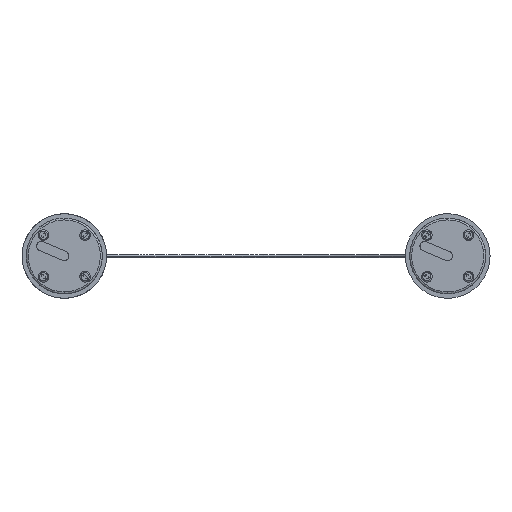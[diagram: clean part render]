
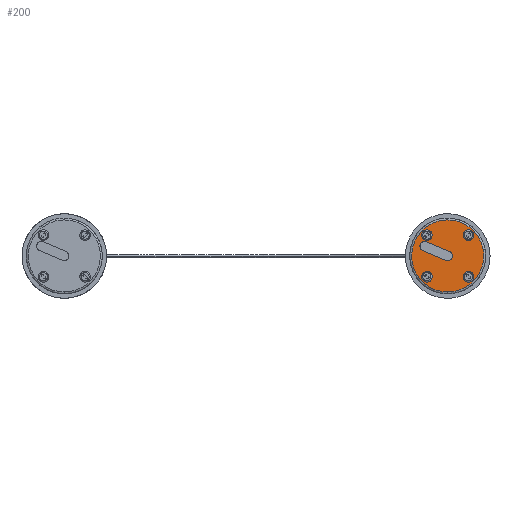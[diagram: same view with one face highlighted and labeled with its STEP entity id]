
A CAD part, top view. The second image highlights one B-rep face of the part: STEP entity #200.
In plain terms, the highlighted planar face has unit normal (0, 0, 1) as drawn and (0, 1, 0) by its records, which use the part's own axes.
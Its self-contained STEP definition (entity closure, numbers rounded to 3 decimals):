
#200=ADVANCED_FACE('',(#578,#386,#387,#388,#389,#390),#5545,.T.);
#386=FACE_BOUND('',#947,.T.);
#387=FACE_BOUND('',#948,.T.);
#388=FACE_BOUND('',#949,.T.);
#389=FACE_BOUND('',#950,.T.);
#390=FACE_BOUND('',#951,.T.);
#578=FACE_OUTER_BOUND('',#946,.T.);
#946=EDGE_LOOP('',(#2036,#2037));
#947=EDGE_LOOP('',(#2038,#2039));
#948=EDGE_LOOP('',(#2040,#2041));
#949=EDGE_LOOP('',(#2042,#2043));
#950=EDGE_LOOP('',(#2044,#2045));
#951=EDGE_LOOP('',(#2046,#2047,#2048,#2049));
#2036=ORIENTED_EDGE('',*,*,#3349,.F.);
#2037=ORIENTED_EDGE('',*,*,#3350,.F.);
#2038=ORIENTED_EDGE('',*,*,#3358,.T.);
#2039=ORIENTED_EDGE('',*,*,#3354,.T.);
#2040=ORIENTED_EDGE('',*,*,#3376,.T.);
#2041=ORIENTED_EDGE('',*,*,#3372,.T.);
#2042=ORIENTED_EDGE('',*,*,#3394,.T.);
#2043=ORIENTED_EDGE('',*,*,#3390,.T.);
#2044=ORIENTED_EDGE('',*,*,#3412,.T.);
#2045=ORIENTED_EDGE('',*,*,#3408,.T.);
#2046=ORIENTED_EDGE('',*,*,#3427,.T.);
#2047=ORIENTED_EDGE('',*,*,#3430,.T.);
#2048=ORIENTED_EDGE('',*,*,#3433,.T.);
#2049=ORIENTED_EDGE('',*,*,#3423,.T.);
#3349=EDGE_CURVE('',#4977,#4978,#4027,.T.);
#3350=EDGE_CURVE('',#4978,#4977,#4028,.T.);
#3354=EDGE_CURVE('',#4979,#4980,#4032,.T.);
#3358=EDGE_CURVE('',#4980,#4979,#4034,.T.);
#3372=EDGE_CURVE('',#4981,#4982,#4042,.T.);
#3376=EDGE_CURVE('',#4982,#4981,#4044,.T.);
#3390=EDGE_CURVE('',#4983,#4984,#4052,.T.);
#3394=EDGE_CURVE('',#4984,#4983,#4054,.T.);
#3408=EDGE_CURVE('',#4985,#4986,#4062,.T.);
#3412=EDGE_CURVE('',#4986,#4985,#4064,.T.);
#3423=EDGE_CURVE('',#4987,#4988,#4069,.T.);
#3427=EDGE_CURVE('',#4988,#4990,#4508,.T.);
#3430=EDGE_CURVE('',#4990,#4989,#4071,.T.);
#3433=EDGE_CURVE('',#4989,#4987,#4512,.T.);
#4027=(
BOUNDED_CURVE()
B_SPLINE_CURVE(2,(#19536,#19537,#19538,#19539,#19540),.UNSPECIFIED.,.F.,
 .F.)
B_SPLINE_CURVE_WITH_KNOTS((3,2,3),(0.,90.321,180.642),
 .UNSPECIFIED.)
CURVE()
GEOMETRIC_REPRESENTATION_ITEM()
RATIONAL_B_SPLINE_CURVE((1.,0.707,1.,0.707,1.))
REPRESENTATION_ITEM('')
);
#4028=(
BOUNDED_CURVE()
B_SPLINE_CURVE(2,(#19541,#19542,#19543,#19544,#19545),.UNSPECIFIED.,.F.,
 .F.)
B_SPLINE_CURVE_WITH_KNOTS((3,2,3),(-180.642,-90.321,
0.),.UNSPECIFIED.)
CURVE()
GEOMETRIC_REPRESENTATION_ITEM()
RATIONAL_B_SPLINE_CURVE((1.,0.707,1.,0.707,1.))
REPRESENTATION_ITEM('')
);
#4032=(
BOUNDED_CURVE()
B_SPLINE_CURVE(2,(#19557,#19558,#19559,#19560,#19561),.UNSPECIFIED.,.F.,
 .F.)
B_SPLINE_CURVE_WITH_KNOTS((3,2,3),(-20.628,-10.418,
-0.208),.UNSPECIFIED.)
CURVE()
GEOMETRIC_REPRESENTATION_ITEM()
RATIONAL_B_SPLINE_CURVE((1.,0.707,1.,0.707,1.))
REPRESENTATION_ITEM('')
);
#4034=(
BOUNDED_CURVE()
B_SPLINE_CURVE(2,(#19571,#19572,#19573,#19574,#19575),.UNSPECIFIED.,.F.,
 .F.)
B_SPLINE_CURVE_WITH_KNOTS((3,2,3),(-20.628,-10.418,
-0.208),.UNSPECIFIED.)
CURVE()
GEOMETRIC_REPRESENTATION_ITEM()
RATIONAL_B_SPLINE_CURVE((1.,0.707,1.,0.707,1.))
REPRESENTATION_ITEM('')
);
#4042=(
BOUNDED_CURVE()
B_SPLINE_CURVE(2,(#19619,#19620,#19621,#19622,#19623),.UNSPECIFIED.,.F.,
 .F.)
B_SPLINE_CURVE_WITH_KNOTS((3,2,3),(-20.628,-10.418,
-0.208),.UNSPECIFIED.)
CURVE()
GEOMETRIC_REPRESENTATION_ITEM()
RATIONAL_B_SPLINE_CURVE((1.,0.707,1.,0.707,1.))
REPRESENTATION_ITEM('')
);
#4044=(
BOUNDED_CURVE()
B_SPLINE_CURVE(2,(#19633,#19634,#19635,#19636,#19637),.UNSPECIFIED.,.F.,
 .F.)
B_SPLINE_CURVE_WITH_KNOTS((3,2,3),(-20.628,-10.418,
-0.208),.UNSPECIFIED.)
CURVE()
GEOMETRIC_REPRESENTATION_ITEM()
RATIONAL_B_SPLINE_CURVE((1.,0.707,1.,0.707,1.))
REPRESENTATION_ITEM('')
);
#4052=(
BOUNDED_CURVE()
B_SPLINE_CURVE(2,(#19681,#19682,#19683,#19684,#19685),.UNSPECIFIED.,.F.,
 .F.)
B_SPLINE_CURVE_WITH_KNOTS((3,2,3),(-20.628,-10.418,
-0.208),.UNSPECIFIED.)
CURVE()
GEOMETRIC_REPRESENTATION_ITEM()
RATIONAL_B_SPLINE_CURVE((1.,0.707,1.,0.707,1.))
REPRESENTATION_ITEM('')
);
#4054=(
BOUNDED_CURVE()
B_SPLINE_CURVE(2,(#19695,#19696,#19697,#19698,#19699),.UNSPECIFIED.,.F.,
 .F.)
B_SPLINE_CURVE_WITH_KNOTS((3,2,3),(-20.628,-10.418,
-0.208),.UNSPECIFIED.)
CURVE()
GEOMETRIC_REPRESENTATION_ITEM()
RATIONAL_B_SPLINE_CURVE((1.,0.707,1.,0.707,1.))
REPRESENTATION_ITEM('')
);
#4062=(
BOUNDED_CURVE()
B_SPLINE_CURVE(2,(#19743,#19744,#19745,#19746,#19747),.UNSPECIFIED.,.F.,
 .F.)
B_SPLINE_CURVE_WITH_KNOTS((3,2,3),(-20.628,-10.418,
-0.208),.UNSPECIFIED.)
CURVE()
GEOMETRIC_REPRESENTATION_ITEM()
RATIONAL_B_SPLINE_CURVE((1.,0.707,1.,0.707,1.))
REPRESENTATION_ITEM('')
);
#4064=(
BOUNDED_CURVE()
B_SPLINE_CURVE(2,(#19757,#19758,#19759,#19760,#19761),.UNSPECIFIED.,.F.,
 .F.)
B_SPLINE_CURVE_WITH_KNOTS((3,2,3),(-20.628,-10.418,
-0.208),.UNSPECIFIED.)
CURVE()
GEOMETRIC_REPRESENTATION_ITEM()
RATIONAL_B_SPLINE_CURVE((1.,0.707,1.,0.707,1.))
REPRESENTATION_ITEM('')
);
#4069=(
BOUNDED_CURVE()
B_SPLINE_CURVE(2,(#19794,#19795,#19796,#19797,#19798),.UNSPECIFIED.,.F.,
 .F.)
B_SPLINE_CURVE_WITH_KNOTS((3,2,3),(-23.562,-11.781,
0.),.UNSPECIFIED.)
CURVE()
GEOMETRIC_REPRESENTATION_ITEM()
RATIONAL_B_SPLINE_CURVE((1.,0.707,1.,0.707,1.))
REPRESENTATION_ITEM('')
);
#4071=(
BOUNDED_CURVE()
B_SPLINE_CURVE(2,(#19814,#19815,#19816,#19817,#19818),.UNSPECIFIED.,.F.,
 .F.)
B_SPLINE_CURVE_WITH_KNOTS((3,2,3),(-23.562,-11.781,
0.),.UNSPECIFIED.)
CURVE()
GEOMETRIC_REPRESENTATION_ITEM()
RATIONAL_B_SPLINE_CURVE((1.,0.707,1.,0.707,1.))
REPRESENTATION_ITEM('')
);
#4508=B_SPLINE_CURVE_WITH_KNOTS('',1,(#19808,#19809),.UNSPECIFIED.,.F.,
 .F.,(2,2),(-40.,0.),.UNSPECIFIED.);
#4512=B_SPLINE_CURVE_WITH_KNOTS('',1,(#19826,#19827),.UNSPECIFIED.,.F.,
 .F.,(2,2),(-40.,0.),.UNSPECIFIED.);
#4977=VERTEX_POINT('',#16896);
#4978=VERTEX_POINT('',#16897);
#4979=VERTEX_POINT('',#16898);
#4980=VERTEX_POINT('',#16899);
#4981=VERTEX_POINT('',#16900);
#4982=VERTEX_POINT('',#16901);
#4983=VERTEX_POINT('',#16902);
#4984=VERTEX_POINT('',#16903);
#4985=VERTEX_POINT('',#16904);
#4986=VERTEX_POINT('',#16905);
#4987=VERTEX_POINT('',#16906);
#4988=VERTEX_POINT('',#16907);
#4989=VERTEX_POINT('',#16908);
#4990=VERTEX_POINT('',#16909);
#5545=PLANE('',#5820);
#5820=AXIS2_PLACEMENT_3D('',#11460,#5924,$);
#5924=DIRECTION('',(0.,1.,0.));
#11460=CARTESIAN_POINT('',(681.023,0.,69.023));
#16896=CARTESIAN_POINT('',(612.,0.,-57.5));
#16897=CARTESIAN_POINT('',(612.,0.,57.5));
#16898=CARTESIAN_POINT('',(584.776,0.,-27.224));
#16899=CARTESIAN_POINT('',(572.756,0.,-39.244));
#16900=CARTESIAN_POINT('',(584.776,0.,27.224));
#16901=CARTESIAN_POINT('',(572.756,0.,39.244));
#16902=CARTESIAN_POINT('',(639.224,0.,27.224));
#16903=CARTESIAN_POINT('',(651.244,0.,39.244));
#16904=CARTESIAN_POINT('',(639.224,0.,-27.224));
#16905=CARTESIAN_POINT('',(651.244,0.,-39.244));
#16906=CARTESIAN_POINT('',(614.93,0.,-6.904));
#16907=CARTESIAN_POINT('',(609.07,0.,6.904));
#16908=CARTESIAN_POINT('',(578.11,0.,-22.533));
#16909=CARTESIAN_POINT('',(572.249,0.,-8.725));
#19536=CARTESIAN_POINT('',(612.,0.,-57.5));
#19537=CARTESIAN_POINT('',(669.5,0.,-57.5));
#19538=CARTESIAN_POINT('',(669.5,0.,0.));
#19539=CARTESIAN_POINT('',(669.5,0.,57.5));
#19540=CARTESIAN_POINT('',(612.,0.,57.5));
#19541=CARTESIAN_POINT('',(612.,0.,57.5));
#19542=CARTESIAN_POINT('',(554.5,0.,57.5));
#19543=CARTESIAN_POINT('',(554.5,0.,0.));
#19544=CARTESIAN_POINT('',(554.5,0.,-57.5));
#19545=CARTESIAN_POINT('',(612.,0.,-57.5));
#19557=CARTESIAN_POINT('',(584.776,0.,-27.224));
#19558=CARTESIAN_POINT('',(578.766,0.,-21.213));
#19559=CARTESIAN_POINT('',(572.756,0.,-27.224));
#19560=CARTESIAN_POINT('',(566.745,0.,-33.234));
#19561=CARTESIAN_POINT('',(572.756,0.,-39.244));
#19571=CARTESIAN_POINT('',(572.756,0.,-39.244));
#19572=CARTESIAN_POINT('',(578.766,0.,-45.255));
#19573=CARTESIAN_POINT('',(584.776,0.,-39.244));
#19574=CARTESIAN_POINT('',(590.787,0.,-33.234));
#19575=CARTESIAN_POINT('',(584.776,0.,-27.224));
#19619=CARTESIAN_POINT('',(584.776,0.,27.224));
#19620=CARTESIAN_POINT('',(590.787,0.,33.234));
#19621=CARTESIAN_POINT('',(584.776,0.,39.244));
#19622=CARTESIAN_POINT('',(578.766,0.,45.255));
#19623=CARTESIAN_POINT('',(572.756,0.,39.244));
#19633=CARTESIAN_POINT('',(572.756,0.,39.244));
#19634=CARTESIAN_POINT('',(566.745,0.,33.234));
#19635=CARTESIAN_POINT('',(572.756,0.,27.224));
#19636=CARTESIAN_POINT('',(578.766,0.,21.213));
#19637=CARTESIAN_POINT('',(584.776,0.,27.224));
#19681=CARTESIAN_POINT('',(639.224,0.,27.224));
#19682=CARTESIAN_POINT('',(645.234,0.,21.213));
#19683=CARTESIAN_POINT('',(651.244,0.,27.224));
#19684=CARTESIAN_POINT('',(657.255,0.,33.234));
#19685=CARTESIAN_POINT('',(651.244,0.,39.244));
#19695=CARTESIAN_POINT('',(651.244,0.,39.244));
#19696=CARTESIAN_POINT('',(645.234,0.,45.255));
#19697=CARTESIAN_POINT('',(639.224,0.,39.244));
#19698=CARTESIAN_POINT('',(633.213,0.,33.234));
#19699=CARTESIAN_POINT('',(639.224,0.,27.224));
#19743=CARTESIAN_POINT('',(639.224,0.,-27.224));
#19744=CARTESIAN_POINT('',(633.213,0.,-33.234));
#19745=CARTESIAN_POINT('',(639.224,0.,-39.244));
#19746=CARTESIAN_POINT('',(645.234,0.,-45.255));
#19747=CARTESIAN_POINT('',(651.244,0.,-39.244));
#19757=CARTESIAN_POINT('',(651.244,0.,-39.244));
#19758=CARTESIAN_POINT('',(657.255,0.,-33.234));
#19759=CARTESIAN_POINT('',(651.244,0.,-27.224));
#19760=CARTESIAN_POINT('',(645.234,0.,-21.213));
#19761=CARTESIAN_POINT('',(639.224,0.,-27.224));
#19794=CARTESIAN_POINT('',(614.93,0.,-6.904));
#19795=CARTESIAN_POINT('',(621.834,0.,-3.973));
#19796=CARTESIAN_POINT('',(618.904,0.,2.93));
#19797=CARTESIAN_POINT('',(615.973,0.,9.834));
#19798=CARTESIAN_POINT('',(609.07,0.,6.904));
#19808=CARTESIAN_POINT('',(609.07,0.,6.904));
#19809=CARTESIAN_POINT('',(572.249,0.,-8.725));
#19814=CARTESIAN_POINT('',(572.249,0.,-8.725));
#19815=CARTESIAN_POINT('',(565.346,0.,-11.656));
#19816=CARTESIAN_POINT('',(568.276,0.,-18.56));
#19817=CARTESIAN_POINT('',(571.207,0.,-25.464));
#19818=CARTESIAN_POINT('',(578.11,0.,-22.533));
#19826=CARTESIAN_POINT('',(578.11,0.,-22.533));
#19827=CARTESIAN_POINT('',(614.93,0.,-6.904));
